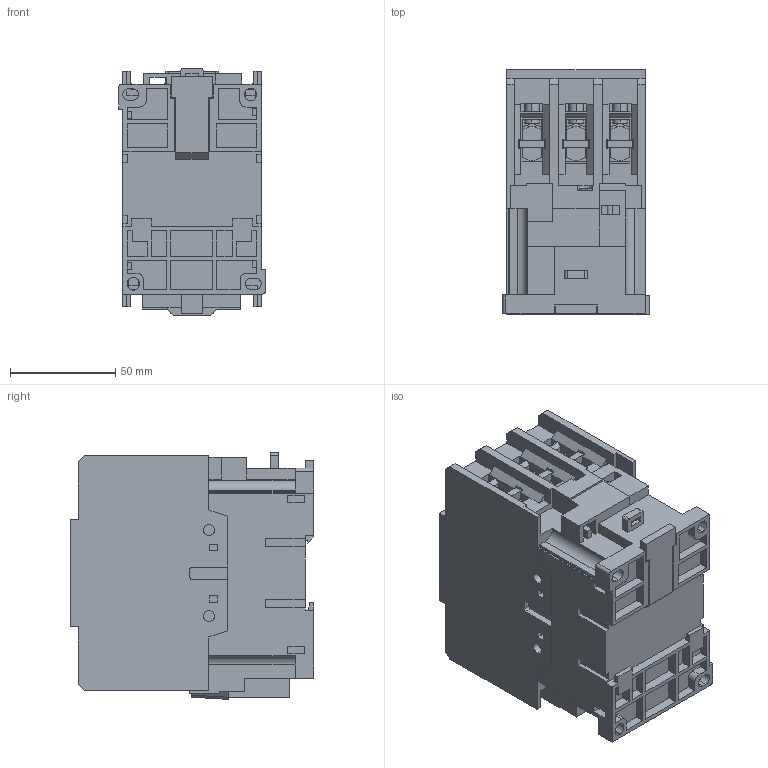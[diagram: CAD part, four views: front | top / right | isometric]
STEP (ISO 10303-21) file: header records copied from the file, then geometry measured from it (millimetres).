
FILE_DESCRIPTION (( 'STEP AP203' ), '1' );
FILE_NAME ('CWL50...95.STEP', '2019-06-25T10:30:40', ( 'Usuário do Windows' ), ( 'WEG Equipamentos Elétricos' ), 'SwSTEP 2.0', 'SolidWorks 2018', '' );
FILE_SCHEMA (( 'CONFIG_CONTROL_DESIGN' ));
Length unit declared in the file: millimetre
Products named in the file (2): CWL50...95
Bounding box: 69.7 x 116 x 117.3 mm (x, y, z)
Volume: 693549.7 mm3; surface area: 90989.4 mm2
Topology: 1 solids, 3 shells, 1192 faces, 3195 edges, 2093 vertices
Faces by surface type: plane 1023, cylinder 127, bspline 32, cone 10
Entity records: 38444 total; most frequent: CARTESIAN_POINT 8456, ORIENTED_EDGE 6390, DIRECTION 5713, EDGE_CURVE 3195, LINE 2773, VECTOR 2773, VERTEX_POINT 2093, AXIS2_PLACEMENT_3D 1470
